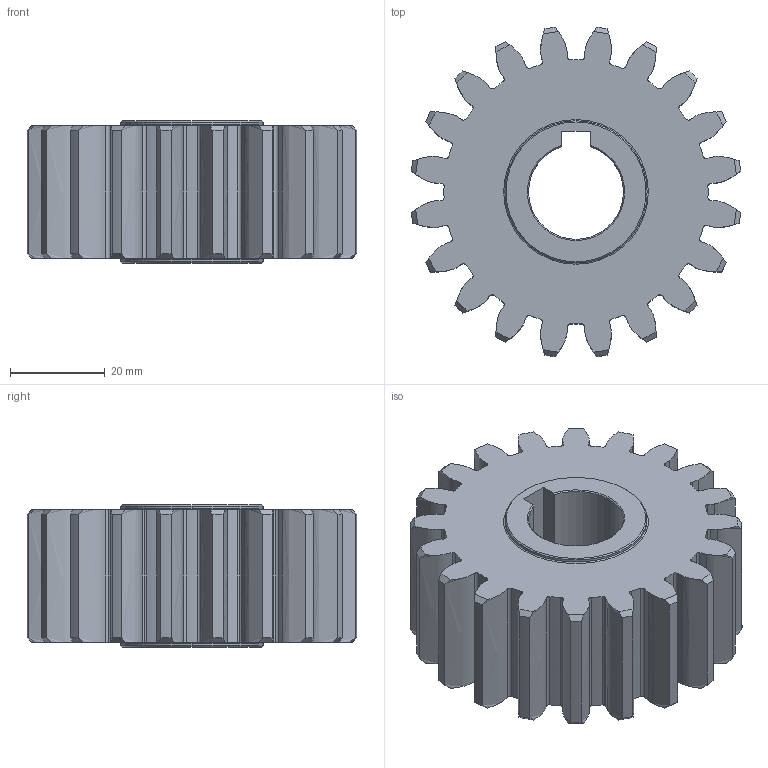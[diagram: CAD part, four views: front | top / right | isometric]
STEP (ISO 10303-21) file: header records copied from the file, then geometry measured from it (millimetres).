
FILE_DESCRIPTION (( 'STEP AP214' ), '1' );
FILE_NAME ('1SG__S031020S.STEP', '2021-12-20T08:40:47', ( '' ), ( '' ), 'SwSTEP 2.0', 'SolidWorks 2021', '' );
FILE_SCHEMA (( 'AUTOMOTIVE_DESIGN' ));
Length unit declared in the file: millimetre
Products named in the file (1): 1SG__S031020S
Bounding box: 69.48 x 69.48 x 30 mm (x, y, z)
Volume: 78424.2 mm3; surface area: 19102.4 mm2
Topology: 1 solids, 1 shells, 218 faces, 670 edges, 456 vertices
Faces by surface type: cylinder 77, bspline 60, cone 50, plane 27, torus 4
Entity records: 13372 total; most frequent: CARTESIAN_POINT 7577, ORIENTED_EDGE 1340, DIRECTION 1076, EDGE_CURVE 670, VERTEX_POINT 456, AXIS2_PLACEMENT_3D 411, LINE 254, VECTOR 254
